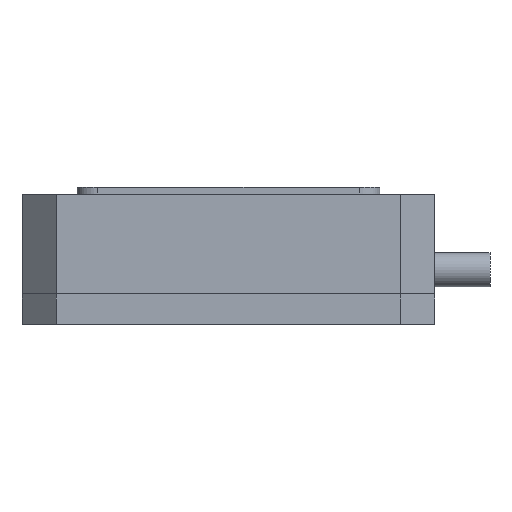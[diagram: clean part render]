
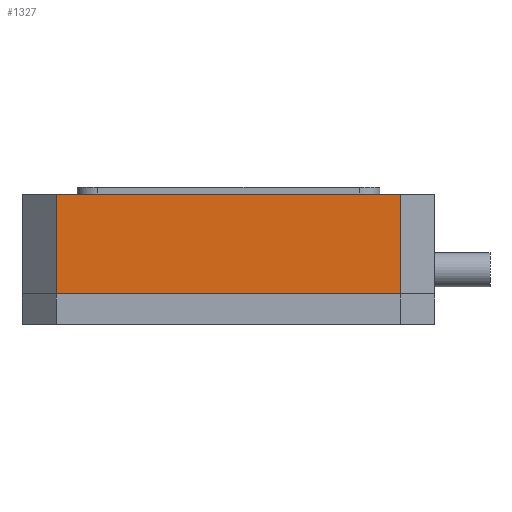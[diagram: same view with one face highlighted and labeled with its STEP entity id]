
A CAD part, front view. The second image highlights one B-rep face of the part: STEP entity #1327.
In plain terms, the highlighted planar face has unit normal (0, -1, 0).
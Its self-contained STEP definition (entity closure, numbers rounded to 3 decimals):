
#25 = VECTOR ( 'NONE', #884, 1000. ) ;
#167 = CARTESIAN_POINT ( 'NONE',  ( -25., -40., 19. ) ) ;
#173 = ORIENTED_EDGE ( 'NONE', *, *, #514, .T. ) ;
#198 = EDGE_CURVE ( 'NONE', #1507, #323, #331, .T. ) ;
#210 = LINE ( 'NONE', #620, #740 ) ;
#221 = ORIENTED_EDGE ( 'NONE', *, *, #198, .T. ) ;
#267 = AXIS2_PLACEMENT_3D ( 'NONE', #167, #1939, #2303 ) ;
#323 = VERTEX_POINT ( 'NONE', #2545 ) ;
#331 = LINE ( 'NONE', #1124, #25 ) ;
#485 = VECTOR ( 'NONE', #2450, 1000. ) ;
#514 = EDGE_CURVE ( 'NONE', #2012, #1507, #1629, .T. ) ;
#620 = CARTESIAN_POINT ( 'NONE',  ( -25., -40., 19. ) ) ;
#705 = EDGE_CURVE ( 'NONE', #2012, #1467, #210, .T. ) ;
#740 = VECTOR ( 'NONE', #2602, 1000. ) ;
#824 = CARTESIAN_POINT ( 'NONE',  ( 25., -40., 19. ) ) ;
#884 = DIRECTION ( 'NONE',  ( 1., 0., 0. ) ) ;
#947 = EDGE_LOOP ( 'NONE', ( #221, #2371, #2133, #173 ) ) ;
#1124 = CARTESIAN_POINT ( 'NONE',  ( -25., -40., 4.5 ) ) ;
#1133 = EDGE_CURVE ( 'NONE', #1467, #323, #1493, .T. ) ;
#1327 = ADVANCED_FACE ( 'NONE', ( #2563 ), #2579, .F. ) ;
#1467 = VERTEX_POINT ( 'NONE', #824 ) ;
#1493 = LINE ( 'NONE', #2634, #1663 ) ;
#1507 = VERTEX_POINT ( 'NONE', #1603 ) ;
#1603 = CARTESIAN_POINT ( 'NONE',  ( -25., -40., 4.5 ) ) ;
#1629 = LINE ( 'NONE', #1644, #485 ) ;
#1644 = CARTESIAN_POINT ( 'NONE',  ( -25., -40., 19. ) ) ;
#1663 = VECTOR ( 'NONE', #2530, 1000. ) ;
#1939 = DIRECTION ( 'NONE',  ( 0., 1., 0. ) ) ;
#2012 = VERTEX_POINT ( 'NONE', #2467 ) ;
#2133 = ORIENTED_EDGE ( 'NONE', *, *, #705, .F. ) ;
#2303 = DIRECTION ( 'NONE',  ( 0., 0., 1. ) ) ;
#2371 = ORIENTED_EDGE ( 'NONE', *, *, #1133, .F. ) ;
#2450 = DIRECTION ( 'NONE',  ( 0., 0., -1. ) ) ;
#2467 = CARTESIAN_POINT ( 'NONE',  ( -25., -40., 19. ) ) ;
#2530 = DIRECTION ( 'NONE',  ( 0., 0., -1. ) ) ;
#2545 = CARTESIAN_POINT ( 'NONE',  ( 25., -40., 4.5 ) ) ;
#2563 = FACE_OUTER_BOUND ( 'NONE', #947, .T. ) ;
#2579 = PLANE ( 'NONE',  #267 ) ;
#2602 = DIRECTION ( 'NONE',  ( 1., 0., 0. ) ) ;
#2634 = CARTESIAN_POINT ( 'NONE',  ( 25., -40., 19. ) ) ;
